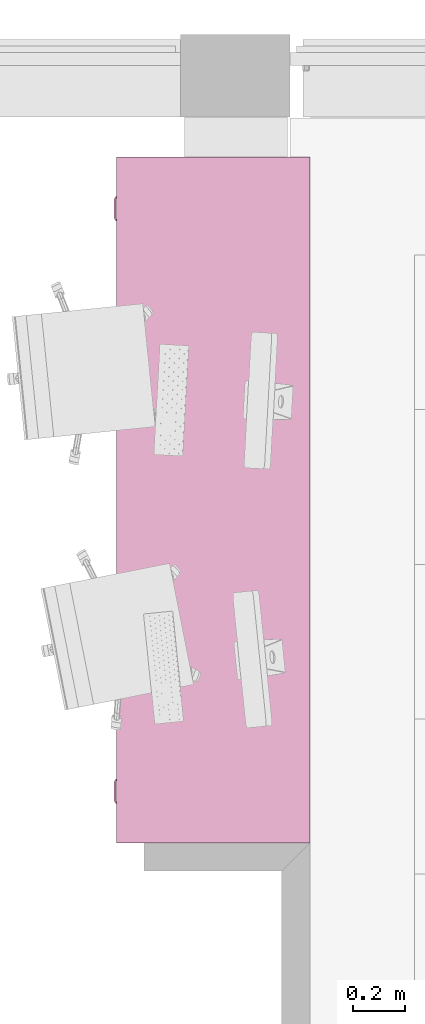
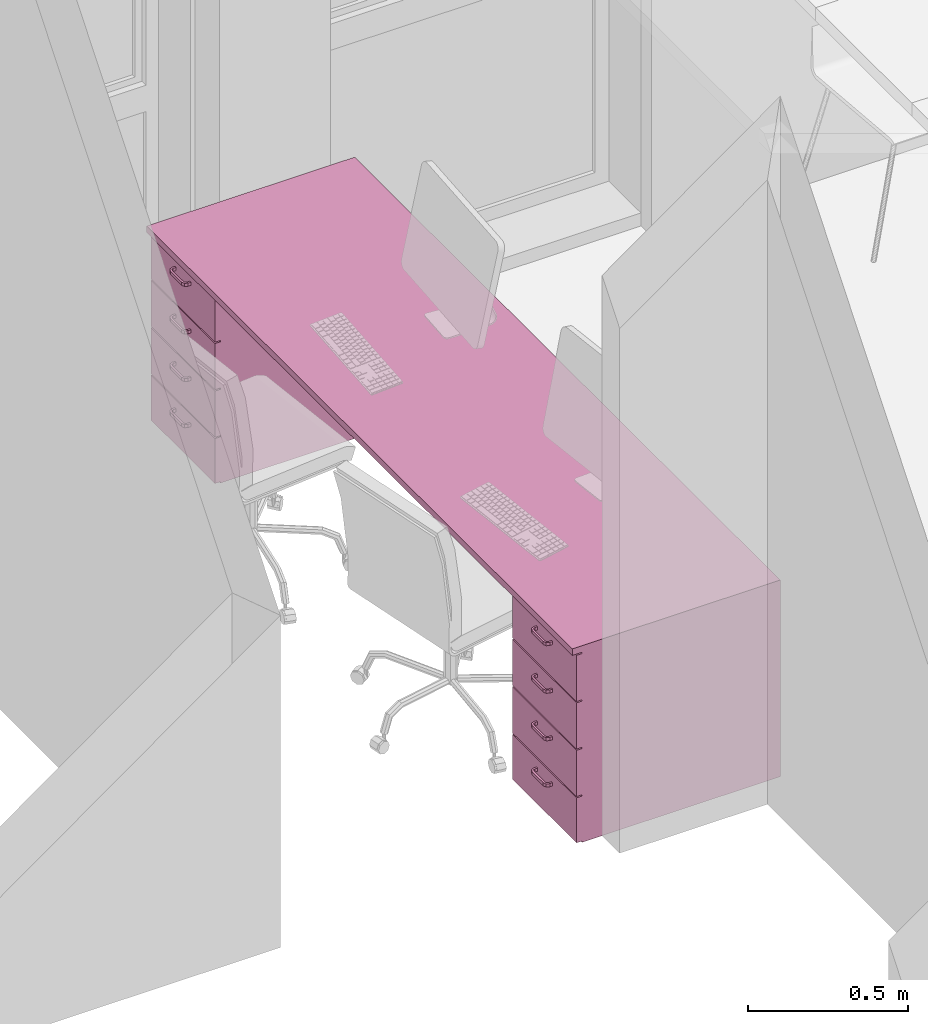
# One storey, part 63 of 68: 1 furnishing.
"""IFC2X3 building model written with IfcOpenShell, lengths in millimetres."""

from ifc_helpers import new_model, entity, si_unit, converted_unit, derived_unit, money_unit, direction, frame, origin_with_axes, place, context, subcontext, project, spatial, faceted_brep, type_object, element, save


model = new_model("IFC2X3")

# Units and contexts
model_context = context("Model", 3, precision=0.01, world=origin_with_axes(), true_north=direction((0.0, 1.0)))
body_context = subcontext(model_context, "Body", "Model", "MODEL_VIEW")
ifc_project = project(units=[si_unit("LENGTHUNIT", "METRE", prefix="MILLI"), si_unit("AREAUNIT", "SQUARE_METRE"), si_unit("VOLUMEUNIT", "CUBIC_METRE"), converted_unit("PLANEANGLEUNIT", "DEGREE", entity("IfcPlaneAngleMeasure", 0.0174532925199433), si_unit("PLANEANGLEUNIT", "RADIAN"), dimensions=[0, 0, 0, 0, 0, 0, 0]), money_unit("USD"), converted_unit("TIMEUNIT", "Year", entity("IfcTimeMeasure", 31557600.0), si_unit("TIMEUNIT", "SECOND"), dimensions=[0, 0, 1, 0, 0, 0, 0]), si_unit("MASSUNIT", "GRAM", prefix="KILO"), si_unit("THERMODYNAMICTEMPERATUREUNIT", "DEGREE_CELSIUS"), si_unit("LUMINOUSINTENSITYUNIT", "LUMEN"), si_unit("ENERGYUNIT", "JOULE", prefix="MEGA"), derived_unit("THERMALCONDUCTANCEUNIT", [(si_unit("POWERUNIT", "WATT"), 1), (si_unit("LENGTHUNIT", "METRE"), -1), (si_unit("THERMODYNAMICTEMPERATUREUNIT", "KELVIN"), -1)]), derived_unit("SPECIFICHEATCAPACITYUNIT", [(si_unit("ENERGYUNIT", "JOULE"), 1), (si_unit("MASSUNIT", "GRAM", prefix="KILO"), -1), (si_unit("THERMODYNAMICTEMPERATUREUNIT", "KELVIN"), -1)]), derived_unit("MASSDENSITYUNIT", [(si_unit("MASSUNIT", "GRAM", prefix="KILO"), 1), (si_unit("VOLUMEUNIT", "CUBIC_METRE"), -1)])], contexts=[model_context])

# Site, building, storey
site_placement = place(None, origin_with_axes())
site = spatial("IfcSite", under=ifc_project, at=site_placement, Name="Sitio", CompositionType="ELEMENT")
building_placement = place(site_placement, origin_with_axes())
building = spatial("IfcBuilding", under=site, at=building_placement, Name="Construcción", CompositionType="ELEMENT")
storey_placement = place(building_placement, origin_with_axes())
storey = spatial("IfcBuildingStorey", under=building, at=storey_placement, Name="PLANTA 1ª", CompositionType="ELEMENT", Elevation=0.0)

# Furnishing
furnishing_element_type = type_object("IfcFurnishingElementType", Name="Mesa Oficina Rect 27")
furnishing_placement = place(storey_placement, frame((-18763.60900490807, -12494.56065481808, 0.0), z_axis=(0.0, 0.0, 1.0), x_axis=(0.0, 1.0, 0.0)))
element("IfcFurnishingElement", 1, at=furnishing_placement, inside=storey, type_object=furnishing_element_type, Name="60.20.51 Armari", context=body_context, shape_type="Brep", body=[
    faceted_brep([(0.0, 0.0, 725.0), (0.0, 0.0, 750.0), (-2659.415168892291, 0.0, 750.0), (-2659.415168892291, 0.0, 725.0), (0.0, 750.0, 725.0), (0.0, 750.0, 750.0), (-2659.415168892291, 750.0, 750.0), (-2659.415168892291, 750.0, 725.0)], [[[0, 1, 2, 3]], [[4, 5, 1, 0]], [[1, 5, 6, 2]], [[3, 2, 6, 7]], [[0, 3, 7, 4]], [[7, 6, 5, 4]]]),
    faceted_brep([(-400.0, 80.0, 125.0), (-400.0, 80.0, 725.0), (-2259.415168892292, 80.0, 725.0), (-2259.415168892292, 80.0, 125.0), (-400.0, 100.0, 125.0), (-400.0, 100.0, 725.0), (-2259.415168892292, 100.0, 725.0), (-2259.415168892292, 100.0, 125.0)], [[[0, 1, 2, 3]], [[4, 5, 1, 0]], [[1, 5, 6, 2]], [[3, 2, 6, 7]], [[0, 3, 7, 4]], [[7, 6, 5, 4]]]),
    faceted_brep([(-2259.415168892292, 715.0, 0.0), (-2259.415168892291, 0.0, 0.0), (-2659.415168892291, 0.0, 0.0), (-2659.415168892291, 715.0, 0.0), (-2259.415168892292, 715.0, 725.0), (-2259.415168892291, 0.0, 725.0), (-2659.415168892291, 0.0, 725.0), (-2659.415168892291, 715.0, 725.0)], [[[0, 1, 2, 3]], [[0, 4, 5, 1]], [[1, 5, 6, 2]], [[2, 6, 7, 3]], [[3, 7, 4, 0]], [[7, 6, 5, 4]]]),
    faceted_brep([(-2659.415168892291, 735.0, 543.75), (-2659.415168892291, 735.0, 720.0), (-2259.415168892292, 735.0, 720.0), (-2259.415168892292, 735.0, 543.75), (-2659.415168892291, 715.0, 543.75), (-2659.415168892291, 715.0, 720.0), (-2259.415168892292, 715.0000000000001, 720.0), (-2259.415168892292, 715.0000000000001, 543.75)], [[[0, 1, 2, 3]], [[4, 5, 1, 0]], [[1, 5, 6, 2]], [[3, 2, 6, 7]], [[0, 3, 7, 4]], [[7, 6, 5, 4]]]),
    faceted_brep([(-2494.415168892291, 753.0, 669.9375), (-2494.415168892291, 753.0, 681.9375), (-2500.072023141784, 750.6568542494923, 681.9375), (-2500.072023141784, 750.6568542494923, 669.9375), (-2424.415168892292, 753.0, 669.9375), (-2424.415168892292, 753.0, 681.9375), (-2418.758314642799, 750.6568542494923, 681.9375), (-2416.415168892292, 745.0, 681.9375), (-2416.415168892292, 735.0, 681.9375), (-2409.415168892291, 735.0, 681.9375), (-2409.415168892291, 745.0, 681.9375), (-2413.808567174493, 755.6066017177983, 681.9375), (-2424.415168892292, 760.0, 681.9375), (-2494.415168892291, 760.0, 681.9375), (-2505.02177061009, 755.6066017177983, 681.9375), (-2509.415168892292, 745.0, 681.9375), (-2509.415168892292, 735.0, 681.9375), (-2502.415168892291, 735.0, 681.9375), (-2502.415168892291, 745.0, 681.9375), (-2502.415168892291, 745.0, 669.9375), (-2502.415168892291, 735.0, 669.9375), (-2509.415168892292, 735.0, 669.9375), (-2509.415168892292, 745.0, 669.9375), (-2505.02177061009, 755.6066017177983, 669.9375), (-2494.415168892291, 760.0, 669.9375), (-2424.415168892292, 760.0, 669.9375), (-2413.808567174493, 755.6066017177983, 669.9375), (-2409.415168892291, 745.0, 669.9375), (-2409.415168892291, 735.0, 669.9375), (-2416.415168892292, 735.0, 669.9375), (-2416.415168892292, 745.0, 669.9375), (-2418.758314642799, 750.6568542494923, 669.9375)], [[[0, 1, 2, 3]], [[4, 5, 1, 0]], [[1, 5, 6, 7, 8, 9, 10, 11, 12, 13, 14, 15, 16, 17, 18, 2]], [[3, 2, 18, 19]], [[0, 3, 19, 20, 21, 22, 23, 24, 25, 26, 27, 28, 29, 30, 31, 4]], [[31, 6, 5, 4]], [[30, 7, 6, 31]], [[29, 8, 7, 30]], [[28, 9, 8, 29]], [[27, 10, 9, 28]], [[26, 11, 10, 27]], [[25, 12, 11, 26]], [[24, 13, 12, 25]], [[23, 14, 13, 24]], [[22, 15, 14, 23]], [[21, 16, 15, 22]], [[20, 17, 16, 21]], [[19, 18, 17, 20]]]),
    faceted_brep([(-2659.415168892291, 735.0, 362.4999999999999), (-2659.415168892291, 735.0, 538.75), (-2259.415168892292, 735.0, 538.75), (-2259.415168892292, 735.0, 362.4999999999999), (-2659.415168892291, 715.0, 362.4999999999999), (-2659.415168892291, 715.0, 538.75), (-2259.415168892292, 715.0000000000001, 538.75), (-2259.415168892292, 715.0000000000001, 362.4999999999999)], [[[0, 1, 2, 3]], [[4, 5, 1, 0]], [[1, 5, 6, 2]], [[3, 2, 6, 7]], [[0, 3, 7, 4]], [[7, 6, 5, 4]]]),
    faceted_brep([(-2494.415168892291, 753.0, 488.6874999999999), (-2494.415168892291, 753.0, 500.6874999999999), (-2500.072023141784, 750.6568542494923, 500.6874999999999), (-2500.072023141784, 750.6568542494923, 488.6874999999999), (-2424.415168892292, 753.0, 488.6874999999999), (-2424.415168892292, 753.0, 500.6874999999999), (-2418.758314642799, 750.6568542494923, 500.6874999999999), (-2416.415168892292, 745.0, 500.6874999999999), (-2416.415168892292, 735.0, 500.6874999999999), (-2409.415168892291, 735.0, 500.6874999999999), (-2409.415168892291, 745.0, 500.6874999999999), (-2413.808567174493, 755.6066017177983, 500.6874999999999), (-2424.415168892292, 760.0, 500.6874999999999), (-2494.415168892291, 760.0, 500.6874999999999), (-2505.02177061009, 755.6066017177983, 500.6874999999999), (-2509.415168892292, 745.0, 500.6874999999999), (-2509.415168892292, 735.0, 500.6874999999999), (-2502.415168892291, 735.0, 500.6874999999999), (-2502.415168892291, 745.0, 500.6874999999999), (-2502.415168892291, 745.0, 488.6874999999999), (-2502.415168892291, 735.0, 488.6874999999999), (-2509.415168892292, 735.0, 488.6874999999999), (-2509.415168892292, 745.0, 488.6874999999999), (-2505.02177061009, 755.6066017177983, 488.6874999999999), (-2494.415168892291, 760.0, 488.6874999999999), (-2424.415168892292, 760.0, 488.6874999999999), (-2413.808567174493, 755.6066017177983, 488.6874999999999), (-2409.415168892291, 745.0, 488.6874999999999), (-2409.415168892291, 735.0, 488.6874999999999), (-2416.415168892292, 735.0, 488.6874999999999), (-2416.415168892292, 745.0, 488.6874999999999), (-2418.758314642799, 750.6568542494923, 488.6874999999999)], [[[0, 1, 2, 3]], [[4, 5, 1, 0]], [[1, 5, 6, 7, 8, 9, 10, 11, 12, 13, 14, 15, 16, 17, 18, 2]], [[3, 2, 18, 19]], [[0, 3, 19, 20, 21, 22, 23, 24, 25, 26, 27, 28, 29, 30, 31, 4]], [[31, 6, 5, 4]], [[30, 7, 6, 31]], [[29, 8, 7, 30]], [[28, 9, 8, 29]], [[27, 10, 9, 28]], [[26, 11, 10, 27]], [[25, 12, 11, 26]], [[24, 13, 12, 25]], [[23, 14, 13, 24]], [[22, 15, 14, 23]], [[21, 16, 15, 22]], [[20, 17, 16, 21]], [[19, 18, 17, 20]]]),
    faceted_brep([(-2659.415168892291, 735.0, 181.25), (-2659.415168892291, 735.0, 357.5), (-2259.415168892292, 735.0, 357.5), (-2259.415168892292, 735.0, 181.25), (-2659.415168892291, 715.0, 181.25), (-2659.415168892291, 715.0, 357.5), (-2259.415168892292, 715.0000000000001, 357.5), (-2259.415168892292, 715.0000000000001, 181.25)], [[[0, 1, 2, 3]], [[4, 5, 1, 0]], [[1, 5, 6, 2]], [[3, 2, 6, 7]], [[0, 3, 7, 4]], [[7, 6, 5, 4]]]),
    faceted_brep([(-2494.415168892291, 753.0, 307.4375), (-2494.415168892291, 753.0, 319.4375), (-2500.072023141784, 750.6568542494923, 319.4375), (-2500.072023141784, 750.6568542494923, 307.4375), (-2424.415168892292, 753.0, 307.4375), (-2424.415168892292, 753.0, 319.4375), (-2418.758314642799, 750.6568542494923, 319.4375), (-2416.415168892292, 745.0, 319.4375), (-2416.415168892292, 735.0, 319.4375), (-2409.415168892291, 735.0, 319.4375), (-2409.415168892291, 745.0, 319.4375), (-2413.808567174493, 755.6066017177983, 319.4375), (-2424.415168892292, 760.0, 319.4375), (-2494.415168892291, 760.0, 319.4375), (-2505.02177061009, 755.6066017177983, 319.4375), (-2509.415168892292, 745.0, 319.4375), (-2509.415168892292, 735.0, 319.4375), (-2502.415168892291, 735.0, 319.4375), (-2502.415168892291, 745.0, 319.4375), (-2502.415168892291, 745.0, 307.4375), (-2502.415168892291, 735.0, 307.4375), (-2509.415168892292, 735.0, 307.4375), (-2509.415168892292, 745.0, 307.4375), (-2505.02177061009, 755.6066017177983, 307.4375), (-2494.415168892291, 760.0, 307.4375), (-2424.415168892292, 760.0, 307.4375), (-2413.808567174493, 755.6066017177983, 307.4375), (-2409.415168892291, 745.0, 307.4375), (-2409.415168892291, 735.0, 307.4375), (-2416.415168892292, 735.0, 307.4375), (-2416.415168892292, 745.0, 307.4375), (-2418.758314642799, 750.6568542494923, 307.4375)], [[[0, 1, 2, 3]], [[4, 5, 1, 0]], [[1, 5, 6, 7, 8, 9, 10, 11, 12, 13, 14, 15, 16, 17, 18, 2]], [[3, 2, 18, 19]], [[0, 3, 19, 20, 21, 22, 23, 24, 25, 26, 27, 28, 29, 30, 31, 4]], [[31, 6, 5, 4]], [[30, 7, 6, 31]], [[29, 8, 7, 30]], [[28, 9, 8, 29]], [[27, 10, 9, 28]], [[26, 11, 10, 27]], [[25, 12, 11, 26]], [[24, 13, 12, 25]], [[23, 14, 13, 24]], [[22, 15, 14, 23]], [[21, 16, 15, 22]], [[20, 17, 16, 21]], [[19, 18, 17, 20]]]),
    faceted_brep([(-2659.415168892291, 735.0, 5.000000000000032), (-2659.415168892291, 735.0, 176.25), (-2259.415168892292, 735.0, 176.25), (-2259.415168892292, 735.0, 5.000000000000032), (-2659.415168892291, 715.0, 5.000000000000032), (-2659.415168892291, 715.0, 176.25), (-2259.415168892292, 715.0000000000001, 176.25), (-2259.415168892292, 715.0000000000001, 5.000000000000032)], [[[0, 1, 2, 3]], [[4, 5, 1, 0]], [[1, 5, 6, 2]], [[3, 2, 6, 7]], [[0, 3, 7, 4]], [[7, 6, 5, 4]]]),
    faceted_brep([(-2494.415168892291, 753.0, 131.1875), (-2494.415168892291, 753.0, 143.1875), (-2500.072023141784, 750.6568542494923, 143.1875), (-2500.072023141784, 750.6568542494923, 131.1875), (-2424.415168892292, 753.0, 131.1875), (-2424.415168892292, 753.0, 143.1875), (-2418.758314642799, 750.6568542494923, 143.1875), (-2416.415168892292, 745.0, 143.1875), (-2416.415168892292, 735.0, 143.1875), (-2409.415168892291, 735.0, 143.1875), (-2409.415168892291, 745.0, 143.1875), (-2413.808567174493, 755.6066017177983, 143.1875), (-2424.415168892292, 760.0, 143.1875), (-2494.415168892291, 760.0, 143.1875), (-2505.02177061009, 755.6066017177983, 143.1875), (-2509.415168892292, 745.0, 143.1875), (-2509.415168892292, 735.0, 143.1875), (-2502.415168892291, 735.0, 143.1875), (-2502.415168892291, 745.0, 143.1875), (-2502.415168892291, 745.0, 131.1875), (-2502.415168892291, 735.0, 131.1875), (-2509.415168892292, 735.0, 131.1875), (-2509.415168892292, 745.0, 131.1875), (-2505.02177061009, 755.6066017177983, 131.1875), (-2494.415168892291, 760.0, 131.1875), (-2424.415168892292, 760.0, 131.1875), (-2413.808567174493, 755.6066017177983, 131.1875), (-2409.415168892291, 745.0, 131.1875), (-2409.415168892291, 735.0, 131.1875), (-2416.415168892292, 735.0, 131.1875), (-2416.415168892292, 745.0, 131.1875), (-2418.758314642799, 750.6568542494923, 131.1875)], [[[0, 1, 2, 3]], [[4, 5, 1, 0]], [[1, 5, 6, 7, 8, 9, 10, 11, 12, 13, 14, 15, 16, 17, 18, 2]], [[3, 2, 18, 19]], [[0, 3, 19, 20, 21, 22, 23, 24, 25, 26, 27, 28, 29, 30, 31, 4]], [[31, 6, 5, 4]], [[30, 7, 6, 31]], [[29, 8, 7, 30]], [[28, 9, 8, 29]], [[27, 10, 9, 28]], [[26, 11, 10, 27]], [[25, 12, 11, 26]], [[24, 13, 12, 25]], [[23, 14, 13, 24]], [[22, 15, 14, 23]], [[21, 16, 15, 22]], [[20, 17, 16, 21]], [[19, 18, 17, 20]]]),
    faceted_brep([(0.0, 715.0, 0.0), (0.0, 0.0, 0.0), (-399.9999999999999, 0.0, 0.0), (-400.0, 715.0, 0.0), (0.0, 715.0, 725.0), (0.0, 0.0, 725.0), (-399.9999999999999, 0.0, 725.0), (-400.0, 715.0, 725.0)], [[[0, 1, 2, 3]], [[0, 4, 5, 1]], [[1, 5, 6, 2]], [[2, 6, 7, 3]], [[3, 7, 4, 0]], [[7, 6, 5, 4]]]),
    faceted_brep([(-400.0, 735.0, 543.75), (-400.0, 735.0, 720.0), (0.0, 735.0, 720.0), (0.0, 735.0, 543.75), (-400.0, 715.0, 543.75), (-400.0, 715.0, 720.0), (0.0, 715.0000000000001, 720.0), (0.0, 715.0000000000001, 543.75)], [[[0, 1, 2, 3]], [[4, 5, 1, 0]], [[1, 5, 6, 2]], [[3, 2, 6, 7]], [[0, 3, 7, 4]], [[7, 6, 5, 4]]]),
    faceted_brep([(-235.0, 753.0, 669.9375), (-235.0, 753.0, 681.9375), (-240.6568542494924, 750.6568542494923, 681.9375), (-240.6568542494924, 750.6568542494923, 669.9375), (-165.0, 753.0, 669.9375), (-165.0, 753.0, 681.9375), (-159.3431457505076, 750.6568542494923, 681.9375), (-157.0, 745.0, 681.9375), (-157.0, 735.0, 681.9375), (-150.0, 735.0, 681.9375), (-150.0, 745.0, 681.9375), (-154.3933982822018, 755.6066017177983, 681.9375), (-165.0, 760.0, 681.9375), (-235.0, 760.0, 681.9375), (-245.6066017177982, 755.6066017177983, 681.9375), (-250.0, 745.0, 681.9375), (-250.0, 735.0, 681.9375), (-243.0, 735.0, 681.9375), (-243.0, 745.0, 681.9375), (-243.0, 745.0, 669.9375), (-243.0, 735.0, 669.9375), (-250.0, 735.0, 669.9375), (-250.0, 745.0, 669.9375), (-245.6066017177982, 755.6066017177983, 669.9375), (-235.0, 760.0, 669.9375), (-165.0, 760.0, 669.9375), (-154.3933982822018, 755.6066017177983, 669.9375), (-150.0, 745.0, 669.9375), (-150.0, 735.0, 669.9375), (-157.0, 735.0, 669.9375), (-157.0, 745.0, 669.9375), (-159.3431457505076, 750.6568542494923, 669.9375)], [[[0, 1, 2, 3]], [[4, 5, 1, 0]], [[1, 5, 6, 7, 8, 9, 10, 11, 12, 13, 14, 15, 16, 17, 18, 2]], [[3, 2, 18, 19]], [[0, 3, 19, 20, 21, 22, 23, 24, 25, 26, 27, 28, 29, 30, 31, 4]], [[31, 6, 5, 4]], [[30, 7, 6, 31]], [[29, 8, 7, 30]], [[28, 9, 8, 29]], [[27, 10, 9, 28]], [[26, 11, 10, 27]], [[25, 12, 11, 26]], [[24, 13, 12, 25]], [[23, 14, 13, 24]], [[22, 15, 14, 23]], [[21, 16, 15, 22]], [[20, 17, 16, 21]], [[19, 18, 17, 20]]]),
    faceted_brep([(-400.0, 735.0, 362.4999999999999), (-400.0, 735.0, 538.75), (0.0, 735.0, 538.75), (0.0, 735.0, 362.4999999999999), (-400.0, 715.0, 362.4999999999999), (-400.0, 715.0, 538.75), (0.0, 715.0000000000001, 538.75), (0.0, 715.0000000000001, 362.4999999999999)], [[[0, 1, 2, 3]], [[4, 5, 1, 0]], [[1, 5, 6, 2]], [[3, 2, 6, 7]], [[0, 3, 7, 4]], [[7, 6, 5, 4]]]),
    faceted_brep([(-235.0, 753.0, 488.6874999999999), (-235.0, 753.0, 500.6874999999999), (-240.6568542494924, 750.6568542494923, 500.6874999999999), (-240.6568542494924, 750.6568542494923, 488.6874999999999), (-165.0, 753.0, 488.6874999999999), (-165.0, 753.0, 500.6874999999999), (-159.3431457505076, 750.6568542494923, 500.6874999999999), (-157.0, 745.0, 500.6874999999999), (-157.0, 735.0, 500.6874999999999), (-150.0, 735.0, 500.6874999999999), (-150.0, 745.0, 500.6874999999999), (-154.3933982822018, 755.6066017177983, 500.6874999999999), (-165.0, 760.0, 500.6874999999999), (-235.0, 760.0, 500.6874999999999), (-245.6066017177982, 755.6066017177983, 500.6874999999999), (-250.0, 745.0, 500.6874999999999), (-250.0, 735.0, 500.6874999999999), (-243.0, 735.0, 500.6874999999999), (-243.0, 745.0, 500.6874999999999), (-243.0, 745.0, 488.6874999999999), (-243.0, 735.0, 488.6874999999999), (-250.0, 735.0, 488.6874999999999), (-250.0, 745.0, 488.6874999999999), (-245.6066017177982, 755.6066017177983, 488.6874999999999), (-235.0, 760.0, 488.6874999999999), (-165.0, 760.0, 488.6874999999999), (-154.3933982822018, 755.6066017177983, 488.6874999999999), (-150.0, 745.0, 488.6874999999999), (-150.0, 735.0, 488.6874999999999), (-157.0, 735.0, 488.6874999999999), (-157.0, 745.0, 488.6874999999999), (-159.3431457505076, 750.6568542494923, 488.6874999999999)], [[[0, 1, 2, 3]], [[4, 5, 1, 0]], [[1, 5, 6, 7, 8, 9, 10, 11, 12, 13, 14, 15, 16, 17, 18, 2]], [[3, 2, 18, 19]], [[0, 3, 19, 20, 21, 22, 23, 24, 25, 26, 27, 28, 29, 30, 31, 4]], [[31, 6, 5, 4]], [[30, 7, 6, 31]], [[29, 8, 7, 30]], [[28, 9, 8, 29]], [[27, 10, 9, 28]], [[26, 11, 10, 27]], [[25, 12, 11, 26]], [[24, 13, 12, 25]], [[23, 14, 13, 24]], [[22, 15, 14, 23]], [[21, 16, 15, 22]], [[20, 17, 16, 21]], [[19, 18, 17, 20]]]),
    faceted_brep([(-400.0, 735.0, 181.25), (-400.0, 735.0, 357.5), (0.0, 735.0, 357.5), (0.0, 735.0, 181.25), (-400.0, 715.0, 181.25), (-400.0, 715.0, 357.5), (0.0, 715.0000000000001, 357.5), (0.0, 715.0000000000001, 181.25)], [[[0, 1, 2, 3]], [[4, 5, 1, 0]], [[1, 5, 6, 2]], [[3, 2, 6, 7]], [[0, 3, 7, 4]], [[7, 6, 5, 4]]]),
    faceted_brep([(-235.0, 753.0, 307.4375), (-235.0, 753.0, 319.4375), (-240.6568542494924, 750.6568542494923, 319.4375), (-240.6568542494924, 750.6568542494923, 307.4375), (-165.0, 753.0, 307.4375), (-165.0, 753.0, 319.4375), (-159.3431457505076, 750.6568542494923, 319.4375), (-157.0, 745.0, 319.4375), (-157.0, 735.0, 319.4375), (-150.0, 735.0, 319.4375), (-150.0, 745.0, 319.4375), (-154.3933982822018, 755.6066017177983, 319.4375), (-165.0, 760.0, 319.4375), (-235.0, 760.0, 319.4375), (-245.6066017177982, 755.6066017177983, 319.4375), (-250.0, 745.0, 319.4375), (-250.0, 735.0, 319.4375), (-243.0, 735.0, 319.4375), (-243.0, 745.0, 319.4375), (-243.0, 745.0, 307.4375), (-243.0, 735.0, 307.4375), (-250.0, 735.0, 307.4375), (-250.0, 745.0, 307.4375), (-245.6066017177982, 755.6066017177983, 307.4375), (-235.0, 760.0, 307.4375), (-165.0, 760.0, 307.4375), (-154.3933982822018, 755.6066017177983, 307.4375), (-150.0, 745.0, 307.4375), (-150.0, 735.0, 307.4375), (-157.0, 735.0, 307.4375), (-157.0, 745.0, 307.4375), (-159.3431457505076, 750.6568542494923, 307.4375)], [[[0, 1, 2, 3]], [[4, 5, 1, 0]], [[1, 5, 6, 7, 8, 9, 10, 11, 12, 13, 14, 15, 16, 17, 18, 2]], [[3, 2, 18, 19]], [[0, 3, 19, 20, 21, 22, 23, 24, 25, 26, 27, 28, 29, 30, 31, 4]], [[31, 6, 5, 4]], [[30, 7, 6, 31]], [[29, 8, 7, 30]], [[28, 9, 8, 29]], [[27, 10, 9, 28]], [[26, 11, 10, 27]], [[25, 12, 11, 26]], [[24, 13, 12, 25]], [[23, 14, 13, 24]], [[22, 15, 14, 23]], [[21, 16, 15, 22]], [[20, 17, 16, 21]], [[19, 18, 17, 20]]]),
    faceted_brep([(-400.0, 735.0, 5.000000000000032), (-400.0, 735.0, 176.25), (0.0, 735.0, 176.25), (0.0, 735.0, 5.000000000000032), (-400.0, 715.0, 5.000000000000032), (-400.0, 715.0, 176.25), (0.0, 715.0000000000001, 176.25), (0.0, 715.0000000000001, 5.000000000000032)], [[[0, 1, 2, 3]], [[4, 5, 1, 0]], [[1, 5, 6, 2]], [[3, 2, 6, 7]], [[0, 3, 7, 4]], [[7, 6, 5, 4]]]),
    faceted_brep([(-235.0, 753.0, 131.1875), (-235.0, 753.0, 143.1875), (-240.6568542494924, 750.6568542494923, 143.1875), (-240.6568542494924, 750.6568542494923, 131.1875), (-165.0, 753.0, 131.1875), (-165.0, 753.0, 143.1875), (-159.3431457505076, 750.6568542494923, 143.1875), (-157.0, 745.0, 143.1875), (-157.0, 735.0, 143.1875), (-150.0, 735.0, 143.1875), (-150.0, 745.0, 143.1875), (-154.3933982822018, 755.6066017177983, 143.1875), (-165.0, 760.0, 143.1875), (-235.0, 760.0, 143.1875), (-245.6066017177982, 755.6066017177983, 143.1875), (-250.0, 745.0, 143.1875), (-250.0, 735.0, 143.1875), (-243.0, 735.0, 143.1875), (-243.0, 745.0, 143.1875), (-243.0, 745.0, 131.1875), (-243.0, 735.0, 131.1875), (-250.0, 735.0, 131.1875), (-250.0, 745.0, 131.1875), (-245.6066017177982, 755.6066017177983, 131.1875), (-235.0, 760.0, 131.1875), (-165.0, 760.0, 131.1875), (-154.3933982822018, 755.6066017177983, 131.1875), (-150.0, 745.0, 131.1875), (-150.0, 735.0, 131.1875), (-157.0, 735.0, 131.1875), (-157.0, 745.0, 131.1875), (-159.3431457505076, 750.6568542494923, 131.1875)], [[[0, 1, 2, 3]], [[4, 5, 1, 0]], [[1, 5, 6, 7, 8, 9, 10, 11, 12, 13, 14, 15, 16, 17, 18, 2]], [[3, 2, 18, 19]], [[0, 3, 19, 20, 21, 22, 23, 24, 25, 26, 27, 28, 29, 30, 31, 4]], [[31, 6, 5, 4]], [[30, 7, 6, 31]], [[29, 8, 7, 30]], [[28, 9, 8, 29]], [[27, 10, 9, 28]], [[26, 11, 10, 27]], [[25, 12, 11, 26]], [[24, 13, 12, 25]], [[23, 14, 13, 24]], [[22, 15, 14, 23]], [[21, 16, 15, 22]], [[20, 17, 16, 21]], [[19, 18, 17, 20]]]),
])

save(model, "model.ifc")
